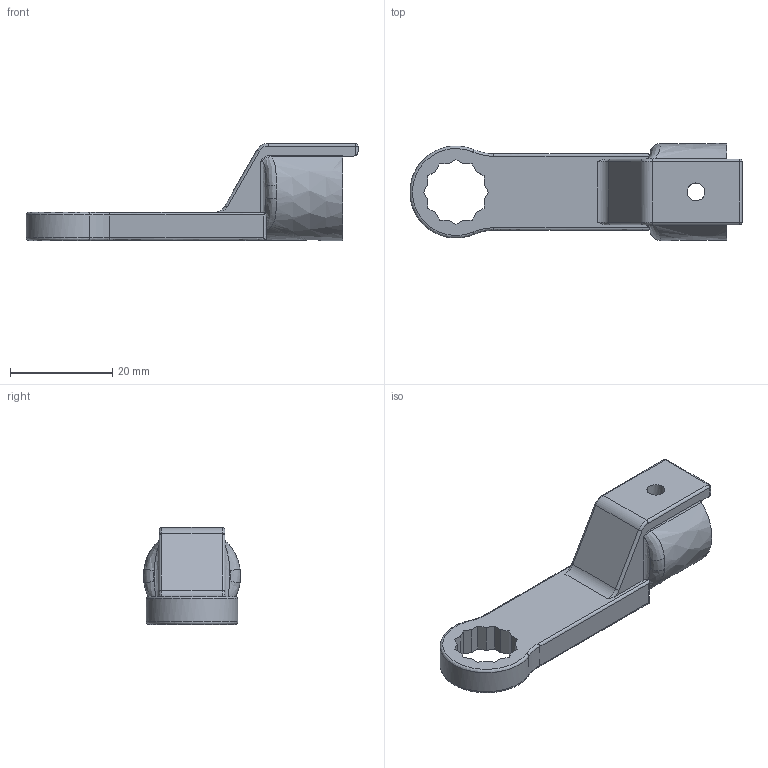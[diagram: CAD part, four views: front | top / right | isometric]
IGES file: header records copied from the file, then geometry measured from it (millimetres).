
Global section: file name: RH12DX11; native system: Autodesk Inventor 2016; preprocessor: unknown; author: Q532; date: 20151110.160144; units: millimetre
Bounding box: 64.99 x 19 x 19 mm (x, y, z)
Volume: 6800.1 mm3; surface area: 4093.3 mm2
Topology: 1 solids, 1 shells, 90 faces, 242 edges, 150 vertices
Faces by surface type: bspline 90
